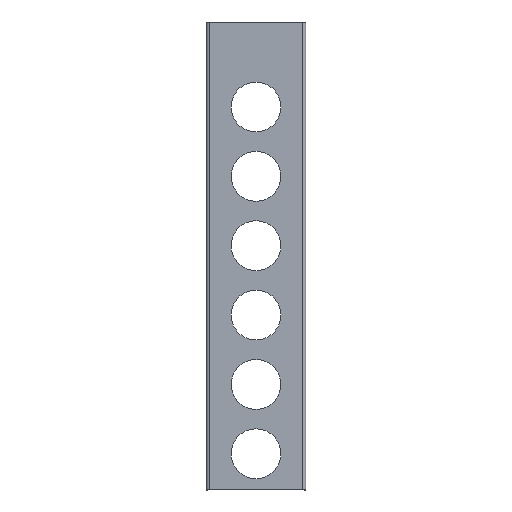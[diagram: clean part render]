
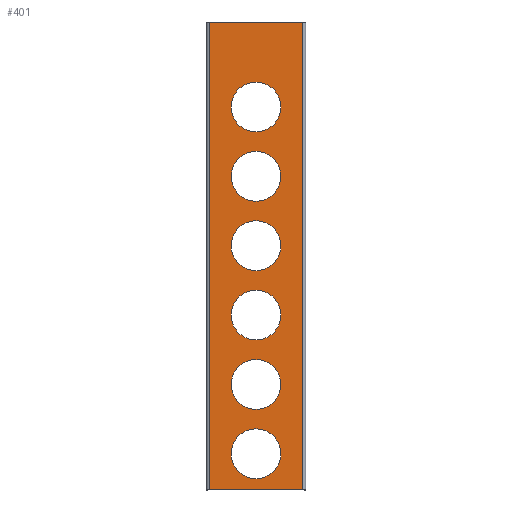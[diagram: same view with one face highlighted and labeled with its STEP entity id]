
A CAD part, top view. The second image highlights one B-rep face of the part: STEP entity #401.
In plain terms, the highlighted planar face has unit normal (0, 0, 1).
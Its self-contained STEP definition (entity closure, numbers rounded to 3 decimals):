
#10 = CARTESIAN_POINT ( 'NONE',  ( -25.5, 108., 40. ) ) ;
#11 = CARTESIAN_POINT ( 'NONE',  ( 25.5, 392., 40. ) ) ;
#12 = CARTESIAN_POINT ( 'NONE',  ( 25.5, 37., 40. ) ) ;
#13 = CARTESIAN_POINT ( 'NONE',  ( -25.5, 321., 40. ) ) ;
#16 = CARTESIAN_POINT ( 'NONE',  ( -25.5, 179., 40. ) ) ;
#18 = CARTESIAN_POINT ( 'NONE',  ( -48., 479., 40. ) ) ;
#19 = CARTESIAN_POINT ( 'NONE',  ( 25.5, 250., 40. ) ) ;
#47 = VERTEX_POINT ( 'NONE', #236 ) ;
#51 = DIRECTION ( 'NONE',  ( -1., 0., 0. ) ) ;
#52 = VERTEX_POINT ( 'NONE', #13 ) ;
#54 = VERTEX_POINT ( 'NONE', #18 ) ;
#56 = VERTEX_POINT ( 'NONE', #61 ) ;
#58 = VERTEX_POINT ( 'NONE', #16 ) ;
#61 = CARTESIAN_POINT ( 'NONE',  ( -25.5, 250., 40. ) ) ;
#70 = DIRECTION ( 'NONE',  ( 1., 0., 0. ) ) ;
#71 = CARTESIAN_POINT ( 'NONE',  ( 48., 0., 40. ) ) ;
#74 = DIRECTION ( 'NONE',  ( 0., 1., 0. ) ) ;
#82 = DIRECTION ( 'NONE',  ( 0., 0., -1. ) ) ;
#84 = CARTESIAN_POINT ( 'NONE',  ( -46., 479., 40. ) ) ;
#86 = CARTESIAN_POINT ( 'NONE',  ( 0., 179., 40. ) ) ;
#87 = CARTESIAN_POINT ( 'NONE',  ( 0., 321., 40. ) ) ;
#88 = CARTESIAN_POINT ( 'NONE',  ( 0., 108., 40. ) ) ;
#89 = DIRECTION ( 'NONE',  ( 0., 0., -1. ) ) ;
#91 = DIRECTION ( 'NONE',  ( 1., 0., 0. ) ) ;
#92 = CARTESIAN_POINT ( 'NONE',  ( 0., 392., 40. ) ) ;
#95 = CARTESIAN_POINT ( 'NONE',  ( 0., 250., 40. ) ) ;
#101 = DIRECTION ( 'NONE',  ( 1., 0., 0. ) ) ;
#104 = DIRECTION ( 'NONE',  ( 1., 0., 0. ) ) ;
#110 = DIRECTION ( 'NONE',  ( 0., 0., -1. ) ) ;
#113 = DIRECTION ( 'NONE',  ( 0., 0., -1. ) ) ;
#114 = DIRECTION ( 'NONE',  ( 1., 0., 0. ) ) ;
#115 = CARTESIAN_POINT ( 'NONE',  ( 0., 250., 40. ) ) ;
#122 = DIRECTION ( 'NONE',  ( 1., 0., 0. ) ) ;
#127 = DIRECTION ( 'NONE',  ( 0., 0., -1. ) ) ;
#129 = CARTESIAN_POINT ( 'NONE',  ( 0., 321., 40. ) ) ;
#139 = VERTEX_POINT ( 'NONE', #372 ) ;
#151 = CARTESIAN_POINT ( 'NONE',  ( -1., 239.5, 40. ) ) ;
#152 = PLANE ( 'NONE',  #854 ) ;
#153 = DIRECTION ( 'NONE',  ( 1., 0., 0. ) ) ;
#198 = CARTESIAN_POINT ( 'NONE',  ( -25.5, 37., 40. ) ) ;
#200 = CARTESIAN_POINT ( 'NONE',  ( 25.5, 179., 40. ) ) ;
#206 = VERTEX_POINT ( 'NONE', #340 ) ;
#213 = VERTEX_POINT ( 'NONE', #19 ) ;
#215 = VERTEX_POINT ( 'NONE', #363 ) ;
#219 = VERTEX_POINT ( 'NONE', #369 ) ;
#220 = VERTEX_POINT ( 'NONE', #12 ) ;
#232 = VERTEX_POINT ( 'NONE', #11 ) ;
#235 = DIRECTION ( 'NONE',  ( 1., 0., 0. ) ) ;
#236 = CARTESIAN_POINT ( 'NONE',  ( 48., 0., 40. ) ) ;
#239 = DIRECTION ( 'NONE',  ( 0., 0., -1. ) ) ;
#240 = DIRECTION ( 'NONE',  ( 0., 0., -1. ) ) ;
#241 = DIRECTION ( 'NONE',  ( 0., 0., -1. ) ) ;
#242 = VERTEX_POINT ( 'NONE', #10 ) ;
#244 = DIRECTION ( 'NONE',  ( 0., 0., -1. ) ) ;
#247 = VERTEX_POINT ( 'NONE', #373 ) ;
#257 = VERTEX_POINT ( 'NONE', #200 ) ;
#263 = DIRECTION ( 'NONE',  ( 1., 0., 0. ) ) ;
#265 = CARTESIAN_POINT ( 'NONE',  ( 0., 392., 40. ) ) ;
#279 = CARTESIAN_POINT ( 'NONE',  ( 0., 37., 40. ) ) ;
#283 = DIRECTION ( 'NONE',  ( 0., 0., -1. ) ) ;
#290 = DIRECTION ( 'NONE',  ( 1., 0., 0. ) ) ;
#294 = DIRECTION ( 'NONE',  ( 0., 0., -1. ) ) ;
#311 = CARTESIAN_POINT ( 'NONE',  ( 0., 179., 40. ) ) ;
#313 = CARTESIAN_POINT ( 'NONE',  ( 0., 37., 40. ) ) ;
#314 = DIRECTION ( 'NONE',  ( 1., 0., 0. ) ) ;
#315 = DIRECTION ( 'NONE',  ( 1., 0., 0. ) ) ;
#331 = DIRECTION ( 'NONE',  ( 0., 0., -1. ) ) ;
#333 = CARTESIAN_POINT ( 'NONE',  ( 0., 108., 40. ) ) ;
#340 = CARTESIAN_POINT ( 'NONE',  ( 25.5, 108., 40. ) ) ;
#344 = DIRECTION ( 'NONE',  ( 0., 0., 1. ) ) ;
#346 = DIRECTION ( 'NONE',  ( 1., 0., 0. ) ) ;
#349 = DIRECTION ( 'NONE',  ( 1., 0., 0. ) ) ;
#350 = VERTEX_POINT ( 'NONE', #198 ) ;
#355 = CARTESIAN_POINT ( 'NONE',  ( -48., 479., 40. ) ) ;
#361 = DIRECTION ( 'NONE',  ( 0., 1., 0. ) ) ;
#363 = CARTESIAN_POINT ( 'NONE',  ( -48., 0., 40. ) ) ;
#369 = CARTESIAN_POINT ( 'NONE',  ( 25.5, 321., 40. ) ) ;
#372 = CARTESIAN_POINT ( 'NONE',  ( 48., 479., 40. ) ) ;
#373 = CARTESIAN_POINT ( 'NONE',  ( -25.5, 392., 40. ) ) ;
#380 = CARTESIAN_POINT ( 'NONE',  ( 48., 479., 40. ) ) ;
#401 = ADVANCED_FACE ( 'NONE', ( #487, #632, #501, #622, #546, #536, #504 ), #152, .T. ) ;
#421 = EDGE_LOOP ( 'NONE', ( #741, #439 ) ) ;
#424 = EDGE_LOOP ( 'NONE', ( #486, #760 ) ) ;
#426 = VECTOR ( 'NONE', #70, 1000. ) ;
#427 = VECTOR ( 'NONE', #51, 1000. ) ;
#435 = VECTOR ( 'NONE', #361, 1000. ) ;
#438 = CIRCLE ( 'NONE', #789, 25.5 ) ;
#439 = ORIENTED_EDGE ( 'NONE', *, *, #879, .T. ) ;
#444 = ORIENTED_EDGE ( 'NONE', *, *, #902, .T. ) ;
#452 = ORIENTED_EDGE ( 'NONE', *, *, #875, .T. ) ;
#466 = EDGE_LOOP ( 'NONE', ( #604, #740 ) ) ;
#476 = CIRCLE ( 'NONE', #862, 25.5 ) ;
#480 = CIRCLE ( 'NONE', #889, 25.5 ) ;
#486 = ORIENTED_EDGE ( 'NONE', *, *, #885, .T. ) ;
#487 = FACE_OUTER_BOUND ( 'NONE', #780, .T. ) ;
#488 = CIRCLE ( 'NONE', #830, 25.5 ) ;
#491 = LINE ( 'NONE', #71, #426 ) ;
#501 = FACE_BOUND ( 'NONE', #421, .T. ) ;
#504 = FACE_BOUND ( 'NONE', #752, .T. ) ;
#515 = CIRCLE ( 'NONE', #908, 25.5 ) ;
#536 = FACE_BOUND ( 'NONE', #424, .T. ) ;
#543 = ORIENTED_EDGE ( 'NONE', *, *, #888, .T. ) ;
#546 = FACE_BOUND ( 'NONE', #756, .T. ) ;
#577 = CIRCLE ( 'NONE', #886, 25.5 ) ;
#582 = LINE ( 'NONE', #380, #612 ) ;
#592 = ORIENTED_EDGE ( 'NONE', *, *, #819, .T. ) ;
#604 = ORIENTED_EDGE ( 'NONE', *, *, #899, .T. ) ;
#612 = VECTOR ( 'NONE', #74, 1000. ) ;
#622 = FACE_BOUND ( 'NONE', #742, .T. ) ;
#632 = FACE_BOUND ( 'NONE', #466, .T. ) ;
#642 = CIRCLE ( 'NONE', #850, 25.5 ) ;
#643 = CIRCLE ( 'NONE', #838, 25.5 ) ;
#659 = CIRCLE ( 'NONE', #806, 25.5 ) ;
#665 = ORIENTED_EDGE ( 'NONE', *, *, #785, .T. ) ;
#668 = ORIENTED_EDGE ( 'NONE', *, *, #891, .T. ) ;
#693 = LINE ( 'NONE', #84, #427 ) ;
#694 = CIRCLE ( 'NONE', #842, 25.5 ) ;
#695 = CIRCLE ( 'NONE', #849, 25.5 ) ;
#697 = LINE ( 'NONE', #355, #435 ) ;
#702 = CIRCLE ( 'NONE', #859, 25.5 ) ;
#737 = ORIENTED_EDGE ( 'NONE', *, *, #887, .T. ) ;
#738 = ORIENTED_EDGE ( 'NONE', *, *, #917, .T. ) ;
#739 = ORIENTED_EDGE ( 'NONE', *, *, #811, .T. ) ;
#740 = ORIENTED_EDGE ( 'NONE', *, *, #883, .T. ) ;
#741 = ORIENTED_EDGE ( 'NONE', *, *, #809, .T. ) ;
#742 = EDGE_LOOP ( 'NONE', ( #543, #444 ) ) ;
#752 = EDGE_LOOP ( 'NONE', ( #737, #665 ) ) ;
#756 = EDGE_LOOP ( 'NONE', ( #739, #738 ) ) ;
#760 = ORIENTED_EDGE ( 'NONE', *, *, #791, .T. ) ;
#770 = ORIENTED_EDGE ( 'NONE', *, *, #916, .F. ) ;
#780 = EDGE_LOOP ( 'NONE', ( #452, #592, #668, #770 ) ) ;
#785 = EDGE_CURVE ( 'NONE', #52, #219, #702, .T. ) ;
#789 = AXIS2_PLACEMENT_3D ( 'NONE', #88, #82, #263 ) ;
#791 = EDGE_CURVE ( 'NONE', #58, #257, #488, .T. ) ;
#806 = AXIS2_PLACEMENT_3D ( 'NONE', #279, #283, #349 ) ;
#809 = EDGE_CURVE ( 'NONE', #213, #56, #515, .T. ) ;
#811 = EDGE_CURVE ( 'NONE', #220, #350, #577, .T. ) ;
#819 = EDGE_CURVE ( 'NONE', #47, #139, #582, .T. ) ;
#830 = AXIS2_PLACEMENT_3D ( 'NONE', #311, #110, #104 ) ;
#838 = AXIS2_PLACEMENT_3D ( 'NONE', #333, #294, #346 ) ;
#842 = AXIS2_PLACEMENT_3D ( 'NONE', #86, #239, #315 ) ;
#849 = AXIS2_PLACEMENT_3D ( 'NONE', #87, #89, #235 ) ;
#850 = AXIS2_PLACEMENT_3D ( 'NONE', #265, #331, #290 ) ;
#854 = AXIS2_PLACEMENT_3D ( 'NONE', #151, #344, #153 ) ;
#859 = AXIS2_PLACEMENT_3D ( 'NONE', #129, #127, #101 ) ;
#862 = AXIS2_PLACEMENT_3D ( 'NONE', #92, #240, #314 ) ;
#875 = EDGE_CURVE ( 'NONE', #215, #47, #491, .T. ) ;
#879 = EDGE_CURVE ( 'NONE', #56, #213, #480, .T. ) ;
#883 = EDGE_CURVE ( 'NONE', #247, #232, #476, .T. ) ;
#885 = EDGE_CURVE ( 'NONE', #257, #58, #694, .T. ) ;
#886 = AXIS2_PLACEMENT_3D ( 'NONE', #313, #113, #114 ) ;
#887 = EDGE_CURVE ( 'NONE', #219, #52, #695, .T. ) ;
#888 = EDGE_CURVE ( 'NONE', #206, #242, #438, .T. ) ;
#889 = AXIS2_PLACEMENT_3D ( 'NONE', #95, #241, #91 ) ;
#891 = EDGE_CURVE ( 'NONE', #139, #54, #693, .T. ) ;
#899 = EDGE_CURVE ( 'NONE', #232, #247, #642, .T. ) ;
#902 = EDGE_CURVE ( 'NONE', #242, #206, #643, .T. ) ;
#908 = AXIS2_PLACEMENT_3D ( 'NONE', #115, #244, #122 ) ;
#916 = EDGE_CURVE ( 'NONE', #215, #54, #697, .T. ) ;
#917 = EDGE_CURVE ( 'NONE', #350, #220, #659, .T. ) ;
